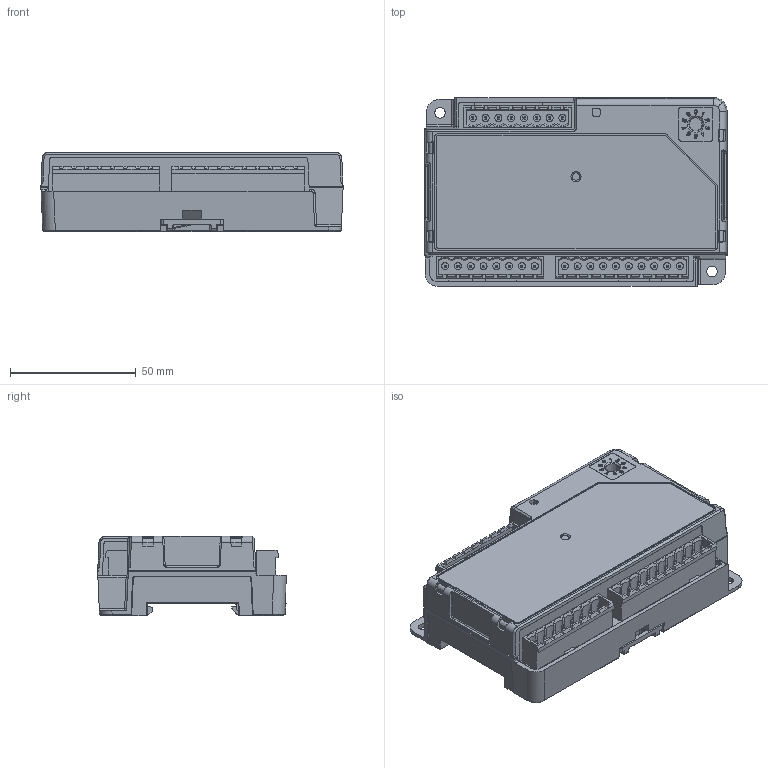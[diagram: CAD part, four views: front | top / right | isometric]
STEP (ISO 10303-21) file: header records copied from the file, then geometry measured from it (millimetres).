
FILE_DESCRIPTION (( 'STEP AP214' ), '1' );
FILE_NAME ('DSE2170.STEP', '2023-07-14T11:57:32', ( '' ), ( '' ), 'SwSTEP 2.0', 'SolidWorks 2022', '' );
FILE_SCHEMA (( 'AUTOMOTIVE_DESIGN' ));
Length unit declared in the file: millimetre
Products named in the file (1): DSE2170
Bounding box: 120 x 74.93 x 31.5 mm (x, y, z)
Volume: 218987.4 mm3; surface area: 42076.5 mm2
Topology: 1 solids, 2 shells, 1561 faces, 3966 edges, 2518 vertices
Faces by surface type: plane 1043, cylinder 235, bspline 234, cone 46, sphere 2, torus 1
Entity records: 56656 total; most frequent: CARTESIAN_POINT 21246, ORIENTED_EDGE 7932, DIRECTION 6164, EDGE_CURVE 3966, LINE 2836, VECTOR 2836, VERTEX_POINT 2518, EDGE_LOOP 1728
